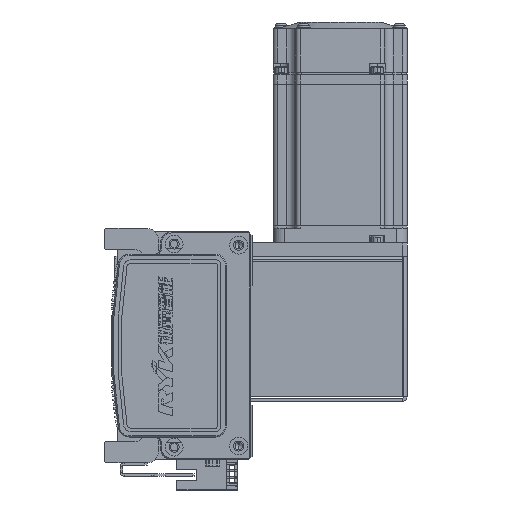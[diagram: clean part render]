
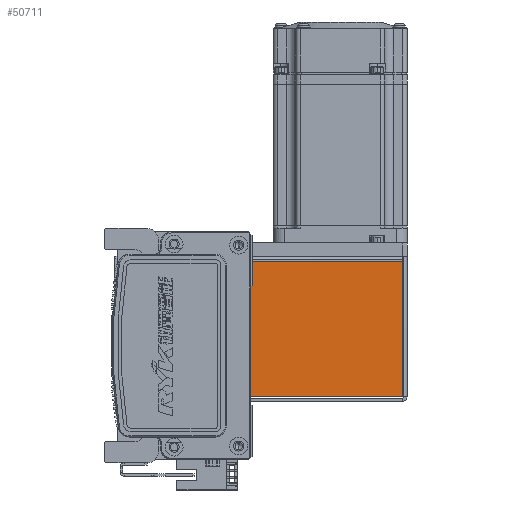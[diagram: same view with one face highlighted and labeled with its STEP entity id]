
A CAD part, left-side view. The second image highlights one B-rep face of the part: STEP entity #50711.
In plain terms, the highlighted planar face has unit normal (-1, 0, 0) as drawn and (0, 0, 1) by its records, which use the part's own axes.
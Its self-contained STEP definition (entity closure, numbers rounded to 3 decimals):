
#527 = EDGE_LOOP ( 'NONE', ( #72438, #26173, #69350, #24687 ) ) ;
#970 = DIRECTION ( 'NONE',  ( -1., 0., 0. ) ) ;
#2113 = DIRECTION ( 'NONE',  ( -1., 0., 0. ) ) ;
#2469 = CARTESIAN_POINT ( 'NONE',  ( -32.5, 0.737, 35. ) ) ;
#3533 = CARTESIAN_POINT ( 'NONE',  ( 30.263, 72.5, 35. ) ) ;
#5131 = DIRECTION ( 'NONE',  ( 0., 1., 0. ) ) ;
#7373 = PLANE ( 'NONE',  #60935 ) ;
#8904 = FACE_OUTER_BOUND ( 'NONE', #527, .T. ) ;
#10799 = VERTEX_POINT ( 'NONE', #23281 ) ;
#11661 = LINE ( 'NONE', #2469, #14353 ) ;
#12855 = DIRECTION ( 'NONE',  ( 0., 0., -1. ) ) ;
#14353 = VECTOR ( 'NONE', #970, 1000. ) ;
#18757 = LINE ( 'NONE', #33226, #39132 ) ;
#20228 = VECTOR ( 'NONE', #38720, 1000. ) ;
#23281 = CARTESIAN_POINT ( 'NONE',  ( 30.263, 0.737, 35. ) ) ;
#24687 = ORIENTED_EDGE ( 'NONE', *, *, #63541, .F. ) ;
#26173 = ORIENTED_EDGE ( 'NONE', *, *, #52389, .T. ) ;
#26323 = CARTESIAN_POINT ( 'NONE',  ( -30.293, 72.5, 35. ) ) ;
#27242 = DIRECTION ( 'NONE',  ( 0., 1., 0. ) ) ;
#33226 = CARTESIAN_POINT ( 'NONE',  ( 30.263, 0.737, 35. ) ) ;
#37903 = LINE ( 'NONE', #45317, #42340 ) ;
#38720 = DIRECTION ( 'NONE',  ( -1., 0., 0. ) ) ;
#39132 = VECTOR ( 'NONE', #27242, 1000. ) ;
#42340 = VECTOR ( 'NONE', #5131, 1000. ) ;
#42474 = EDGE_CURVE ( 'NONE', #67030, #47499, #37903, .T. ) ;
#45317 = CARTESIAN_POINT ( 'NONE',  ( -30.293, 0., 35. ) ) ;
#47499 = VERTEX_POINT ( 'NONE', #26323 ) ;
#50328 = EDGE_CURVE ( 'NONE', #10799, #53433, #18757, .T. ) ;
#50711 = ADVANCED_FACE ( 'NONE', ( #8904 ), #7373, .F. ) ;
#52389 = EDGE_CURVE ( 'NONE', #53433, #47499, #69067, .T. ) ;
#53433 = VERTEX_POINT ( 'NONE', #3533 ) ;
#60935 = AXIS2_PLACEMENT_3D ( 'NONE', #64680, #12855, #2113 ) ;
#63541 = EDGE_CURVE ( 'NONE', #10799, #67030, #11661, .T. ) ;
#64680 = CARTESIAN_POINT ( 'NONE',  ( 0., 0., 35. ) ) ;
#67030 = VERTEX_POINT ( 'NONE', #70509 ) ;
#67804 = CARTESIAN_POINT ( 'NONE',  ( 0., 72.5, 35. ) ) ;
#69067 = LINE ( 'NONE', #67804, #20228 ) ;
#69350 = ORIENTED_EDGE ( 'NONE', *, *, #42474, .F. ) ;
#70509 = CARTESIAN_POINT ( 'NONE',  ( -30.293, 0.737, 35. ) ) ;
#72438 = ORIENTED_EDGE ( 'NONE', *, *, #50328, .T. ) ;
